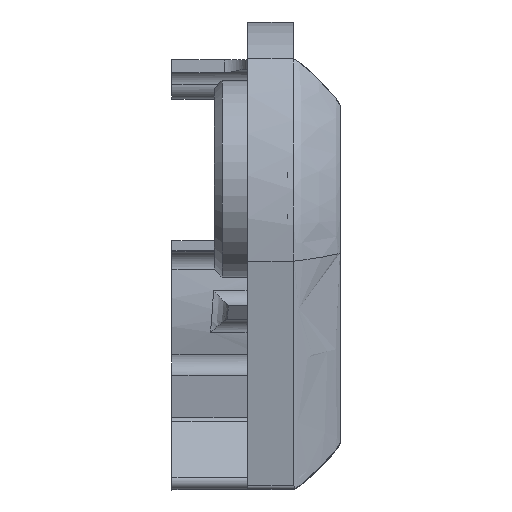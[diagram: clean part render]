
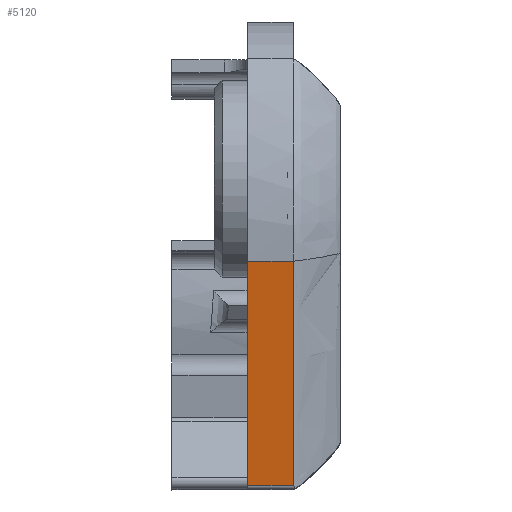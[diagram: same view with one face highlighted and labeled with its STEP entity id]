
A CAD part, top view. The second image highlights one B-rep face of the part: STEP entity #5120.
In plain terms, the highlighted planar face has unit normal (0, -0.174, 0.985).
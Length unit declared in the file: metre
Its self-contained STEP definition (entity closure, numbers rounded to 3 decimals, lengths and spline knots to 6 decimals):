
#645=B_SPLINE_CURVE_WITH_KNOTS('',3,(#9239,#9240,#9241,#9242),
 .UNSPECIFIED.,.F.,.F.,(4,4),(0.,0.985745),.UNSPECIFIED.);
#1220=ORIENTED_EDGE('',*,*,#2663,.F.);
#1221=ORIENTED_EDGE('',*,*,#2678,.T.);
#1222=ORIENTED_EDGE('',*,*,#2259,.F.);
#1223=ORIENTED_EDGE('',*,*,#2679,.F.);
#2259=EDGE_CURVE('',#3037,#3038,#3555,.T.);
#2663=EDGE_CURVE('',#3382,#3383,#645,.T.);
#2678=EDGE_CURVE('',#3382,#3038,#3693,.T.);
#2679=EDGE_CURVE('',#3383,#3037,#3694,.T.);
#3037=VERTEX_POINT('',#7554);
#3038=VERTEX_POINT('',#7556);
#3382=VERTEX_POINT('',#9238);
#3383=VERTEX_POINT('',#9243);
#3555=LINE('',#7555,#3890);
#3693=LINE('',#9419,#4028);
#3694=LINE('',#9421,#4029);
#3890=VECTOR('',#6008,1.);
#4028=VECTOR('',#6592,1.);
#4029=VECTOR('',#6595,1.);
#4299=EDGE_LOOP('',(#1220,#1221,#1222,#1223));
#4668=FACE_BOUND('',#4299,.T.);
#4993=PLANE('',#5606);
#5120=ADVANCED_FACE('',(#4668),#4993,.F.);
#5606=AXIS2_PLACEMENT_3D('',#9420,#6593,#6594);
#6008=DIRECTION('',(0.,0.985,0.174));
#6592=DIRECTION('',(-1.,0.,0.));
#6593=DIRECTION('',(0.,0.174,-0.985));
#6594=DIRECTION('',(0.,0.985,0.174));
#6595=DIRECTION('',(-1.,0.,0.));
#7554=CARTESIAN_POINT('',(-0.0975,-0.061174,-0.401354));
#7555=CARTESIAN_POINT('',(-0.0975,-0.033016,-0.396389));
#7556=CARTESIAN_POINT('',(-0.0975,-0.004032,-0.391279));
#9238=CARTESIAN_POINT('',(-0.085879,-0.004032,-0.391279));
#9239=CARTESIAN_POINT('',(-0.085879,-0.004032,-0.391279));
#9240=CARTESIAN_POINT('',(-0.085879,-0.023079,-0.394637));
#9241=CARTESIAN_POINT('',(-0.085879,-0.042127,-0.397996));
#9242=CARTESIAN_POINT('',(-0.085879,-0.061174,-0.401354));
#9243=CARTESIAN_POINT('',(-0.085879,-0.061174,-0.401354));
#9419=CARTESIAN_POINT('',(1.181197,-0.004032,-0.391279));
#9420=CARTESIAN_POINT('',(1.181197,-0.033016,-0.396389));
#9421=CARTESIAN_POINT('',(-0.0975,-0.061174,-0.401354));
